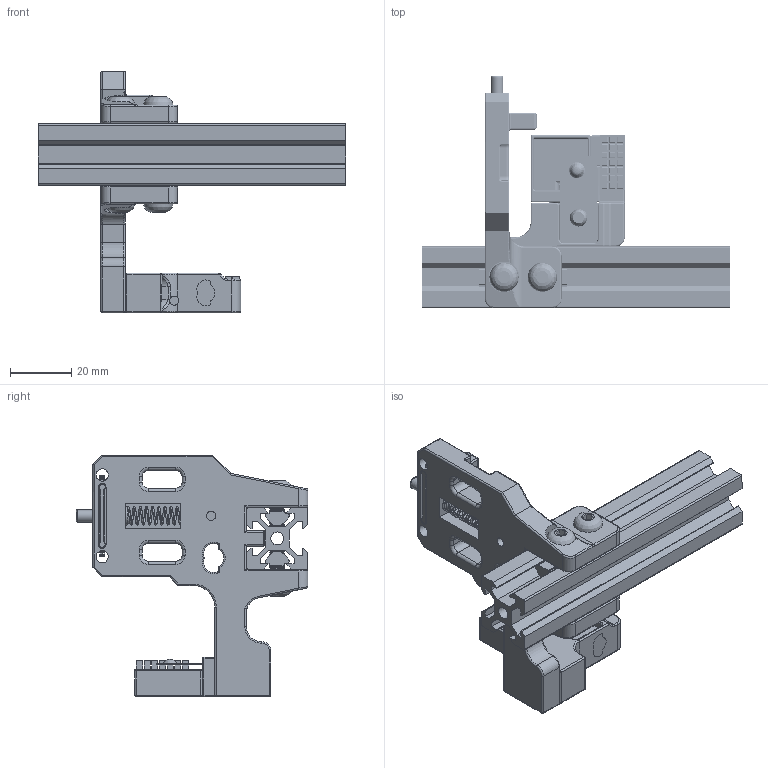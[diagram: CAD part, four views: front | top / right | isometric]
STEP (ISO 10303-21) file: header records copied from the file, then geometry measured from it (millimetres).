
FILE_DESCRIPTION(/* description */ (''),/* implementation_level */ '2;1');
FILE_NAME(/* name */ 'Lineux r2.1 Dock v51.step',/* time_stamp */ '2025-10-21T19:43:46+07:00',/* author */ (''),/* organization */ (''),/* preprocessor_version */ 'ST-DEVELOPER v20.1',/* originating_system */ 'Autodesk Translation Framework v14.17.0.0',/* authorisation */ '');
FILE_SCHEMA (('AUTOMOTIVE_DESIGN { 1 0 10303 214 3 1 1 }'));
Products named in the file (38): Lineux r2.1 Dock; Nozzle Blocker; Drip Tray; 6x3mm magnet (2); 6x3mm magnet (3); [a]_drip_tray; Nozzle Blocker (1); Bambulab A1 Brush; nozzle_blocker_mount (1); 6x3mm magnet (5); m3 washer (1); AA battery terminal; m3 x 10mm bhcs (4); m3 hex nut (3); 6x3mm magnet (4); m3 x 10mm bhcs (2); [a]_logo_nb; Dock; dock_1; dock (1); Hardware (1); m3 x 6mm bhcs (1); 2020 Drop-in T-nut, M5; 2020 Drop-in T-nut, M5_1; m5 x 12mm bhcs (1); m5 x 12mm bhcs (3); Wire; m5 x 12mm bhcs; m5 x 12mm bhcs (2); spring OD6 ID5 20mm; m3 x OD4 16mm threaded dowel pin; m3 heat insert; 6 x 3mm n52 magnet; 8 x 5mm n52 magnet; 8 x 5mm n52 magnet (1); 2020 Drop-in T-nut, M5_2; 2020 Drop-in T-nut, M5_3; 2020 Extrusion
Assembly tree (37 placements, depth 4):
  Lineux r2.1 Dock
    Nozzle Blocker
      Drip Tray
        6x3mm magnet (2)
        6x3mm magnet (3)
        [a]_drip_tray
      Nozzle Blocker (1)
        Bambulab A1 Brush
        nozzle_blocker_mount (1)
        6x3mm magnet (5)
        m3 washer (1)
        AA battery terminal
        m3 x 10mm bhcs (4)
        m3 hex nut (3)
        6x3mm magnet (4)
        m3 x 10mm bhcs (2)
        [a]_logo_nb
    Dock
      dock_1
        dock (1)
      Hardware (1)
        m3 x 6mm bhcs (1)
        2020 Drop-in T-nut, M5
        2020 Drop-in T-nut, M5_1
        m5 x 12mm bhcs (1)
        m5 x 12mm bhcs (3)
        Wire
        m5 x 12mm bhcs
        m5 x 12mm bhcs (2)
        spring OD6 ID5 20mm
        m3 x OD4 16mm threaded dowel pin
        m3 heat insert
        6 x 3mm n52 magnet
        8 x 5mm n52 magnet
        8 x 5mm n52 magnet (1)
        2020 Drop-in T-nut, M5_2
        2020 Drop-in T-nut, M5_3
    2020 Extrusion
Bounding box: 100 x 75.5 x 78.76 mm (x, y, z)
Volume: 54503 mm3; surface area: 42950.5 mm2
Topology: 35 solids, 35 shells, 1617 faces, 4140 edges, 2596 vertices
Faces by surface type: cylinder 781, plane 515, bspline 150, torus 89, sphere 50, cone 32
Full cylindrical faces by diameter (mm): 0.3 x14, 2.356 x52, 2.5 x5, 2.529 x11, 2.729 x1, 2.927 x49, 3 x8, 3.086 x5, 3.4 x2, 3.99 x16, 4 x3, 4.145 x2, 4.2 x2, 4.7 x1, 4.901 x36, 5.12 x12, 5.5 x4, 5.7 x3, 6 x5, 6.1 x5, 6.7 x1, 7 x1, 8 x2, 8.1 x2, 10 x2
Entity records: 105978 total; most frequent: CARTESIAN_POINT 67725, ORIENTED_EDGE 8202, DIRECTION 7097, EDGE_CURVE 4101, AXIS2_PLACEMENT_3D 2642, VERTEX_POINT 2596, LINE 1813, VECTOR 1813
